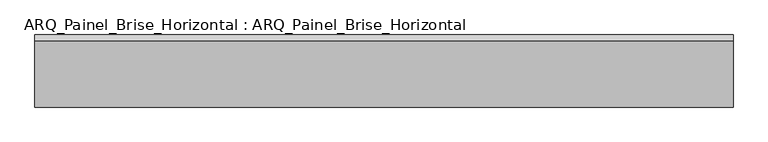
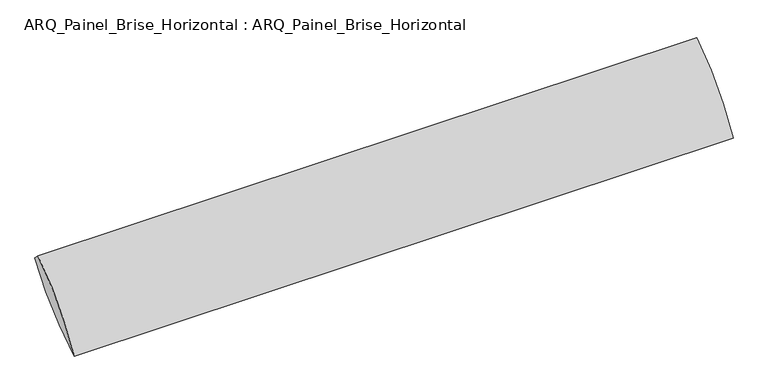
"""IFC4 building model written with IfcOpenShell, lengths in millimetres: plate geometry, ARQ_Painel_Brise_Horizontal : ARQ_Painel_Brise_Horizontal."""

from ifc_helpers import new_model, si_unit, point, frame, frame_2d, origin, place, context, project, spatial, polyline, circle_curve, trimmed, segment, composite_curve, outline, extrude, source, transform, mapped, element, save


def arq_painel_brise_horizontal_arq_painel_brise_horizontal_309e50f0(model_context):
    return source(origin(), model_context, "Body", "SweptSolid", [
        extrude(outline(composite_curve([segment(trimmed(circle_curve(frame_2d((409.2411412, -409.983355)), 605.0640904), [point((-123.5044126, -123.1302071))], [point((79.9808419, 97.648607))], False, "CARTESIAN"), True, "CONTINUOUS"), segment(polyline([(79.9808419, 97.648607), (97.2744015, 80.3550474)]), True, "CONTINUOUS"), segment(trimmed(circle_curve(frame_2d((-410.3575605, 409.6153467)), 605.0640904), [point((97.2744015, 80.3550474))], [point((-123.5044126, -123.1302071))], False, "CARTESIAN"), True, "CONTINUOUS")], self_intersect=False)), frame((-1068.7500001, 0.0, 0.0), z_axis=(1.0, 0.0, 0.0), x_axis=(0.0, 1.0, 0.0)), (0.0, 0.0, 1.0), 2137.5000002),
    ])


if __name__ == "__main__":
    model = new_model("IFC4")
    model_context = context("Model", 3, world=origin())
    ifc_project = project(units=[si_unit("LENGTHUNIT", "METRE", prefix="MILLI")], contexts=[model_context])
    site = spatial("IfcSite", under=ifc_project)
    building = spatial("IfcBuilding", under=site)
    placement = place(None, origin())
    arq_painel_brise_horizontal_arq_painel_brise_horizontal_shape = arq_painel_brise_horizontal_arq_painel_brise_horizontal_309e50f0(model_context)
    element("IfcPlate", 1, ObjectType="ARQ_Painel_Brise_Horizontal : ARQ_Painel_Brise_Horizontal", at=placement, inside=building, context=model_context, shape_type="MappedRepresentation", body=[
        mapped(arq_painel_brise_horizontal_arq_painel_brise_horizontal_shape, transform((0.0, 0.0, 0.0), x_axis=(1.0, 0.0, 0.0), y_axis=(0.0, 1.0, 0.0), z_axis=(0.0, 0.0, 1.0))),
    ])
    save(model, "model.ifc")
